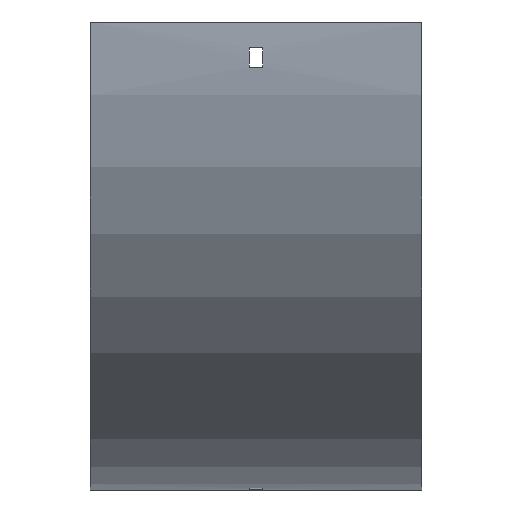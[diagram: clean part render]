
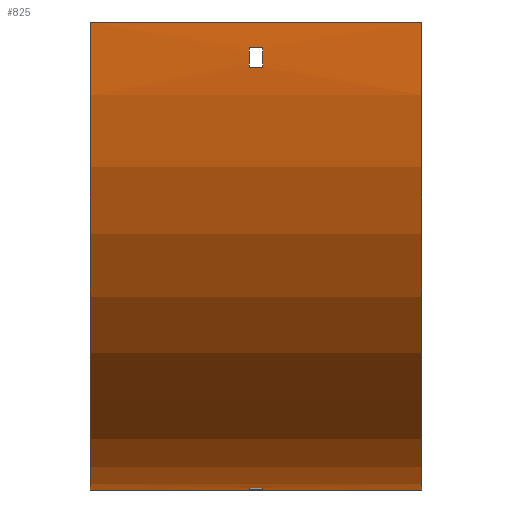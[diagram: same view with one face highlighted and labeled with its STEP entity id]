
A CAD part, front view. The second image highlights one B-rep face of the part: STEP entity #825.
In plain terms, the highlighted cylindrical face has radius 217.5 mm (diameter 435 mm), a partial arc.
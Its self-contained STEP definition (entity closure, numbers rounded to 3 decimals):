
#14 = CIRCLE ( 'NONE', #318, 217.5 ) ;
#29 = CARTESIAN_POINT ( 'NONE',  ( 3.25, 88., -217.169 ) ) ;
#35 = CARTESIAN_POINT ( 'NONE',  ( 3.25, 79., -216.484 ) ) ;
#38 = ORIENTED_EDGE ( 'NONE', *, *, #99, .F. ) ;
#39 = DIRECTION ( 'NONE',  ( 1., 0., 0. ) ) ;
#42 = VECTOR ( 'NONE', #39, 1000. ) ;
#44 = CIRCLE ( 'NONE', #997, 217.5 ) ;
#58 = FACE_BOUND ( 'NONE', #918, .T. ) ;
#60 = CARTESIAN_POINT ( 'NONE',  ( -3.25, 100., 0. ) ) ;
#75 = VERTEX_POINT ( 'NONE', #1561 ) ;
#83 = LINE ( 'NONE', #1659, #560 ) ;
#84 = VERTEX_POINT ( 'NONE', #1027 ) ;
#99 = EDGE_CURVE ( 'NONE', #523, #84, #44, .T. ) ;
#106 = ORIENTED_EDGE ( 'NONE', *, *, #953, .F. ) ;
#107 = CARTESIAN_POINT ( 'NONE',  ( -77., 100., -217.5 ) ) ;
#134 = DIRECTION ( 'NONE',  ( -1., 0., 0. ) ) ;
#153 = DIRECTION ( 'NONE',  ( 0., 0., 1. ) ) ;
#162 = ORIENTED_EDGE ( 'NONE', *, *, #732, .F. ) ;
#186 = DIRECTION ( 'NONE',  ( 1., 0., 0. ) ) ;
#230 = EDGE_LOOP ( 'NONE', ( #1130, #1315, #38, #344 ) ) ;
#238 = VERTEX_POINT ( 'NONE', #29 ) ;
#255 = CARTESIAN_POINT ( 'NONE',  ( 77., 79., -216.484 ) ) ;
#283 = CARTESIAN_POINT ( 'NONE',  ( 77., 100., 0. ) ) ;
#311 = DIRECTION ( 'NONE',  ( 1., 0., 0. ) ) ;
#318 = AXIS2_PLACEMENT_3D ( 'NONE', #1497, #582, #1327 ) ;
#322 = EDGE_CURVE ( 'NONE', #1648, #567, #1377, .T. ) ;
#344 = ORIENTED_EDGE ( 'NONE', *, *, #905, .T. ) ;
#351 = EDGE_CURVE ( 'NONE', #377, #663, #14, .T. ) ;
#363 = VECTOR ( 'NONE', #576, 1000. ) ;
#377 = VERTEX_POINT ( 'NONE', #1199 ) ;
#423 = VECTOR ( 'NONE', #134, 1000. ) ;
#445 = CYLINDRICAL_SURFACE ( 'NONE', #683, 217.5 ) ;
#503 = DIRECTION ( 'NONE',  ( 0., 0., -1. ) ) ;
#523 = VERTEX_POINT ( 'NONE', #614 ) ;
#539 = CARTESIAN_POINT ( 'NONE',  ( -77., 100., 0. ) ) ;
#549 = ORIENTED_EDGE ( 'NONE', *, *, #1689, .F. ) ;
#560 = VECTOR ( 'NONE', #1677, 1000. ) ;
#567 = VERTEX_POINT ( 'NONE', #1393 ) ;
#576 = DIRECTION ( 'NONE',  ( -1., 0., 0. ) ) ;
#582 = DIRECTION ( 'NONE',  ( -1., 0., 0. ) ) ;
#595 = DIRECTION ( 'NONE',  ( -1., 0., 0. ) ) ;
#614 = CARTESIAN_POINT ( 'NONE',  ( 77., -117.5, 0. ) ) ;
#619 = DIRECTION ( 'NONE',  ( 1., 0., 0. ) ) ;
#663 = VERTEX_POINT ( 'NONE', #1555 ) ;
#679 = CIRCLE ( 'NONE', #735, 217.5 ) ;
#683 = AXIS2_PLACEMENT_3D ( 'NONE', #283, #1066, #153 ) ;
#689 = CARTESIAN_POINT ( 'NONE',  ( 77., 88., -217.169 ) ) ;
#701 = EDGE_CURVE ( 'NONE', #716, #1556, #726, .T. ) ;
#714 = CARTESIAN_POINT ( 'NONE',  ( 3.25, -116.484, -21. ) ) ;
#716 = VERTEX_POINT ( 'NONE', #1673 ) ;
#725 = DIRECTION ( 'NONE',  ( -1., 0., 0. ) ) ;
#726 = CIRCLE ( 'NONE', #1071, 217.5 ) ;
#732 = EDGE_CURVE ( 'NONE', #567, #238, #1060, .T. ) ;
#734 = CARTESIAN_POINT ( 'NONE',  ( 77., -117.169, -12. ) ) ;
#735 = AXIS2_PLACEMENT_3D ( 'NONE', #1375, #311, #1201 ) ;
#738 = LINE ( 'NONE', #766, #1391 ) ;
#766 = CARTESIAN_POINT ( 'NONE',  ( 77., -117.5, 0. ) ) ;
#825 = ADVANCED_FACE ( 'NONE', ( #1616, #1333, #58 ), #445, .T. ) ;
#905 = EDGE_CURVE ( 'NONE', #523, #716, #738, .T. ) ;
#910 = CARTESIAN_POINT ( 'NONE',  ( 77., 100., 0. ) ) ;
#914 = AXIS2_PLACEMENT_3D ( 'NONE', #60, #186, #1465 ) ;
#918 = EDGE_LOOP ( 'NONE', ( #1483, #549, #106, #162 ) ) ;
#927 = ORIENTED_EDGE ( 'NONE', *, *, #351, .T. ) ;
#928 = LINE ( 'NONE', #255, #423 ) ;
#953 = EDGE_CURVE ( 'NONE', #238, #1206, #1193, .T. ) ;
#964 = VECTOR ( 'NONE', #619, 1000. ) ;
#968 = CARTESIAN_POINT ( 'NONE',  ( 3.25, 100., 0. ) ) ;
#992 = LINE ( 'NONE', #734, #964 ) ;
#997 = AXIS2_PLACEMENT_3D ( 'NONE', #910, #1536, #503 ) ;
#1027 = CARTESIAN_POINT ( 'NONE',  ( 77., 100., -217.5 ) ) ;
#1041 = ORIENTED_EDGE ( 'NONE', *, *, #1461, .T. ) ;
#1050 = DIRECTION ( 'NONE',  ( 0., 0., -1. ) ) ;
#1060 = LINE ( 'NONE', #689, #42 ) ;
#1066 = DIRECTION ( 'NONE',  ( -1., 0., 0. ) ) ;
#1071 = AXIS2_PLACEMENT_3D ( 'NONE', #539, #1684, #1050 ) ;
#1083 = CARTESIAN_POINT ( 'NONE',  ( 77., -116.484, -21. ) ) ;
#1091 = LINE ( 'NONE', #1083, #363 ) ;
#1108 = EDGE_LOOP ( 'NONE', ( #1041, #927, #1522, #1267 ) ) ;
#1130 = ORIENTED_EDGE ( 'NONE', *, *, #701, .T. ) ;
#1163 = VERTEX_POINT ( 'NONE', #714 ) ;
#1193 = CIRCLE ( 'NONE', #1353, 217.5 ) ;
#1199 = CARTESIAN_POINT ( 'NONE',  ( -3.25, -116.484, -21. ) ) ;
#1201 = DIRECTION ( 'NONE',  ( 0., 0., -1. ) ) ;
#1203 = EDGE_CURVE ( 'NONE', #75, #1163, #679, .T. ) ;
#1206 = VERTEX_POINT ( 'NONE', #35 ) ;
#1267 = ORIENTED_EDGE ( 'NONE', *, *, #1203, .T. ) ;
#1297 = CARTESIAN_POINT ( 'NONE',  ( -3.25, 79., -216.484 ) ) ;
#1315 = ORIENTED_EDGE ( 'NONE', *, *, #1516, .F. ) ;
#1327 = DIRECTION ( 'NONE',  ( 0., 0., 1. ) ) ;
#1333 = FACE_BOUND ( 'NONE', #1108, .T. ) ;
#1353 = AXIS2_PLACEMENT_3D ( 'NONE', #968, #595, #1678 ) ;
#1375 = CARTESIAN_POINT ( 'NONE',  ( 3.25, 100., 0. ) ) ;
#1377 = CIRCLE ( 'NONE', #914, 217.5 ) ;
#1391 = VECTOR ( 'NONE', #725, 1000. ) ;
#1393 = CARTESIAN_POINT ( 'NONE',  ( -3.25, 88., -217.169 ) ) ;
#1461 = EDGE_CURVE ( 'NONE', #1163, #377, #1091, .T. ) ;
#1465 = DIRECTION ( 'NONE',  ( 0., 1., 0. ) ) ;
#1483 = ORIENTED_EDGE ( 'NONE', *, *, #322, .F. ) ;
#1497 = CARTESIAN_POINT ( 'NONE',  ( -3.25, 100., 0. ) ) ;
#1516 = EDGE_CURVE ( 'NONE', #84, #1556, #83, .T. ) ;
#1522 = ORIENTED_EDGE ( 'NONE', *, *, #1582, .T. ) ;
#1536 = DIRECTION ( 'NONE',  ( 1., 0., 0. ) ) ;
#1555 = CARTESIAN_POINT ( 'NONE',  ( -3.25, -117.169, -12. ) ) ;
#1556 = VERTEX_POINT ( 'NONE', #107 ) ;
#1561 = CARTESIAN_POINT ( 'NONE',  ( 3.25, -117.169, -12. ) ) ;
#1582 = EDGE_CURVE ( 'NONE', #663, #75, #992, .T. ) ;
#1616 = FACE_OUTER_BOUND ( 'NONE', #230, .T. ) ;
#1648 = VERTEX_POINT ( 'NONE', #1297 ) ;
#1659 = CARTESIAN_POINT ( 'NONE',  ( 77., 100., -217.5 ) ) ;
#1673 = CARTESIAN_POINT ( 'NONE',  ( -77., -117.5, 0. ) ) ;
#1677 = DIRECTION ( 'NONE',  ( -1., 0., 0. ) ) ;
#1678 = DIRECTION ( 'NONE',  ( 0., 0., 1. ) ) ;
#1684 = DIRECTION ( 'NONE',  ( 1., 0., 0. ) ) ;
#1689 = EDGE_CURVE ( 'NONE', #1206, #1648, #928, .T. ) ;
